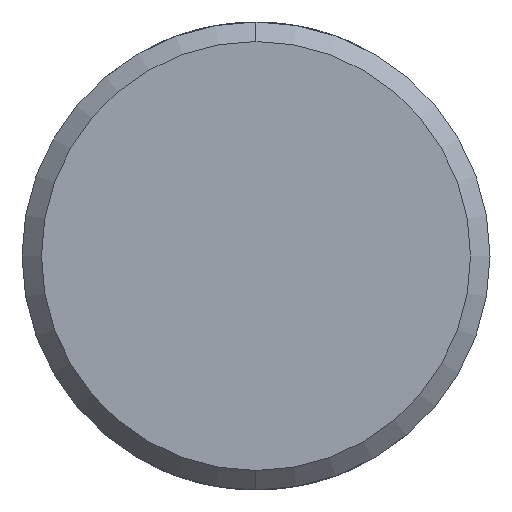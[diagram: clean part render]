
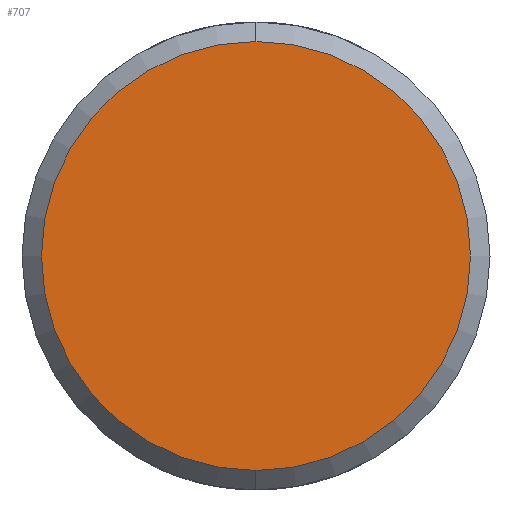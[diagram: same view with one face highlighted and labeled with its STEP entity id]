
A CAD part, left-side view. The second image highlights one B-rep face of the part: STEP entity #707.
In plain terms, the highlighted planar face has unit normal (-1, 0, 0).
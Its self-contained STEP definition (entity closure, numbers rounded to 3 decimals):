
#49 = ORIENTED_EDGE ( 'NONE', *, *, #205, .T. ) ;
#186 = DIRECTION ( 'NONE',  ( 0., 0., -1. ) ) ;
#205 = EDGE_CURVE ( 'NONE', #422, #867, #287, .T. ) ;
#206 = DIRECTION ( 'NONE',  ( 0., 0., -1. ) ) ;
#272 = PLANE ( 'NONE',  #450 ) ;
#274 = AXIS2_PLACEMENT_3D ( 'NONE', #661, #599, #206 ) ;
#287 = CIRCLE ( 'NONE', #939, 5.5 ) ;
#320 = FACE_OUTER_BOUND ( 'NONE', #657, .T. ) ;
#353 = DIRECTION ( 'NONE',  ( 1., 0., 0. ) ) ;
#422 = VERTEX_POINT ( 'NONE', #999 ) ;
#426 = CARTESIAN_POINT ( 'NONE',  ( -112., 0., 0. ) ) ;
#450 = AXIS2_PLACEMENT_3D ( 'NONE', #426, #353, #186 ) ;
#525 = DIRECTION ( 'NONE',  ( -1., 0., 0. ) ) ;
#531 = ORIENTED_EDGE ( 'NONE', *, *, #992, .T. ) ;
#575 = CARTESIAN_POINT ( 'NONE',  ( -112., 0., -5.5 ) ) ;
#599 = DIRECTION ( 'NONE',  ( -1., 0., 0. ) ) ;
#657 = EDGE_LOOP ( 'NONE', ( #531, #49 ) ) ;
#661 = CARTESIAN_POINT ( 'NONE',  ( -112., 0., 0. ) ) ;
#707 = ADVANCED_FACE ( 'NONE', ( #320 ), #272, .F. ) ;
#756 = CARTESIAN_POINT ( 'NONE',  ( -112., 0., 0. ) ) ;
#760 = DIRECTION ( 'NONE',  ( 0., 0., -1. ) ) ;
#867 = VERTEX_POINT ( 'NONE', #575 ) ;
#939 = AXIS2_PLACEMENT_3D ( 'NONE', #756, #525, #760 ) ;
#972 = CIRCLE ( 'NONE', #274, 5.5 ) ;
#992 = EDGE_CURVE ( 'NONE', #867, #422, #972, .T. ) ;
#999 = CARTESIAN_POINT ( 'NONE',  ( -112., 0., 5.5 ) ) ;
